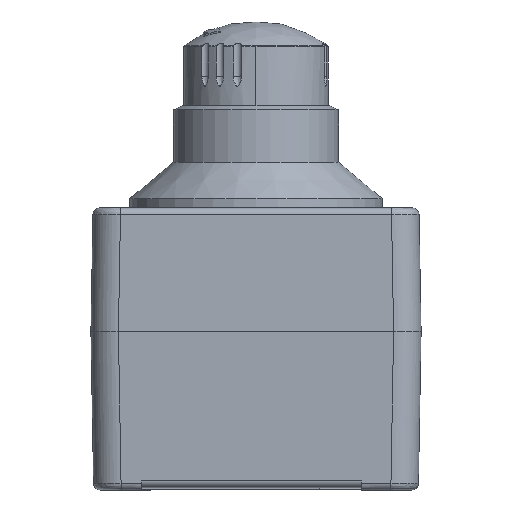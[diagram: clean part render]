
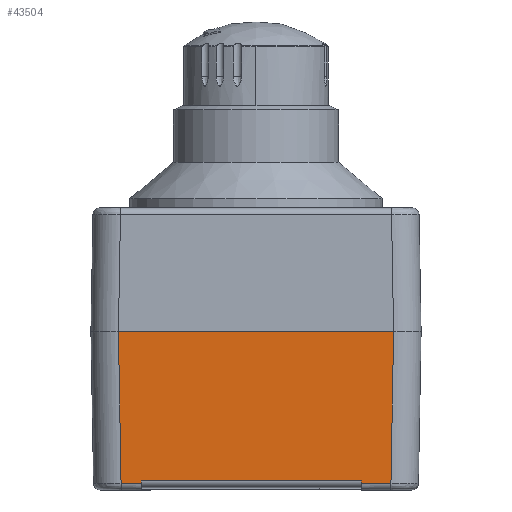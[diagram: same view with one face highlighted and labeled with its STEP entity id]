
A CAD part, left-side view. The second image highlights one B-rep face of the part: STEP entity #43504.
In plain terms, the highlighted planar face has unit normal (-1, 0, -0.018).
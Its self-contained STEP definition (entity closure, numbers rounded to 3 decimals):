
#2102=DIRECTION('',(0.,1.,0.));
#2103=VECTOR('',#2102,6.424);
#2104=CARTESIAN_POINT('',(-35.424,-29.197,
0.974));
#2105=LINE('',#2104,#2103);
#2447=DIRECTION('',(0.,1.,0.));
#2448=VECTOR('',#2447,48.);
#2449=CARTESIAN_POINT('',(-35.432,-22.773,
1.474));
#2450=LINE('',#2449,#2448);
#2484=DIRECTION('',(0.,1.,0.));
#2485=VECTOR('',#2484,4.424);
#2486=CARTESIAN_POINT('',(-35.424,25.227,
0.974));
#2487=LINE('',#2486,#2485);
#2823=DIRECTION('',(0.,-1.,0.));
#2824=VECTOR('',#2823,60.002);
#2825=CARTESIAN_POINT('',(-36.,30.228,34.));
#2826=LINE('',#2825,#2824);
#3231=DIRECTION('',(0.017,-0.017,-1.));
#3232=VECTOR('',#3231,33.036);
#3233=CARTESIAN_POINT('',(-36.,30.228,34.));
#3234=LINE('',#3233,#3232);
#3238=DIRECTION('',(-0.017,-0.017,1.));
#3239=VECTOR('',#3238,33.036);
#3240=CARTESIAN_POINT('',(-35.424,-29.197,
0.974));
#3241=LINE('',#3240,#3239);
#3245=DIRECTION('',(0.017,0.,-1.));
#3246=VECTOR('',#3245,0.5);
#3247=CARTESIAN_POINT('',(-35.432,-22.773,
1.474));
#3248=LINE('',#3247,#3246);
#3252=DIRECTION('',(-0.017,0.,1.));
#3253=VECTOR('',#3252,0.5);
#3254=CARTESIAN_POINT('',(-35.424,25.227,
0.974));
#3255=LINE('',#3254,#3253);
#36712=CARTESIAN_POINT('',(-36.,-29.774,34.));
#36713=VERTEX_POINT('',#36712);
#36715=CARTESIAN_POINT('',(-36.,30.228,34.));
#36716=VERTEX_POINT('',#36715);
#39747=CARTESIAN_POINT('',(-35.424,-22.773,
0.974));
#39748=VERTEX_POINT('',#39747);
#39749=CARTESIAN_POINT('',(-35.432,-22.773,
1.474));
#39750=VERTEX_POINT('',#39749);
#40226=CARTESIAN_POINT('',(-35.424,29.652,
0.974));
#40227=VERTEX_POINT('',#40226);
#40228=CARTESIAN_POINT('',(-35.424,25.227,
0.974));
#40230=VERTEX_POINT('',#40228);
#40234=CARTESIAN_POINT('',(-35.432,25.227,
1.474));
#40235=VERTEX_POINT('',#40234);
#40242=CARTESIAN_POINT('',(-35.424,-29.197,
0.974));
#40243=VERTEX_POINT('',#40242);
#43489=CARTESIAN_POINT('',(-35.407,-35.773,
0.005));
#43490=DIRECTION('',(-1.,0.,-0.017));
#43491=DIRECTION('',(0.017,0.,-1.));
#43492=AXIS2_PLACEMENT_3D('',#43489,#43490,#43491);
#43493=PLANE('',#43492);
#43494=ORIENTED_EDGE('',*,*,#42843,.T.);
#43495=ORIENTED_EDGE('',*,*,#42934,.F.);
#43496=ORIENTED_EDGE('',*,*,#43210,.T.);
#43497=ORIENTED_EDGE('',*,*,#43481,.F.);
#43498=ORIENTED_EDGE('',*,*,#42535,.T.);
#43499=ORIENTED_EDGE('',*,*,#42560,.F.);
#43500=ORIENTED_EDGE('',*,*,#42808,.T.);
#43501=ORIENTED_EDGE('',*,*,#42820,.F.);
#43502=EDGE_LOOP('',(#43494,#43495,#43496,#43497,#43498,#43499,#43500,#43501));
#43503=FACE_OUTER_BOUND('',#43502,.F.);
#42535=EDGE_CURVE('',#40243,#39748,#2105,.T.);
#42560=EDGE_CURVE('',#39750,#39748,#3248,.T.);
#42808=EDGE_CURVE('',#39750,#40235,#2450,.T.);
#42820=EDGE_CURVE('',#40230,#40235,#3255,.T.);
#42843=EDGE_CURVE('',#40230,#40227,#2487,.T.);
#42934=EDGE_CURVE('',#36716,#40227,#3234,.T.);
#43210=EDGE_CURVE('',#36716,#36713,#2826,.T.);
#43481=EDGE_CURVE('',#40243,#36713,#3241,.T.);
#43504=ADVANCED_FACE('',(#43503),#43493,.T.);
